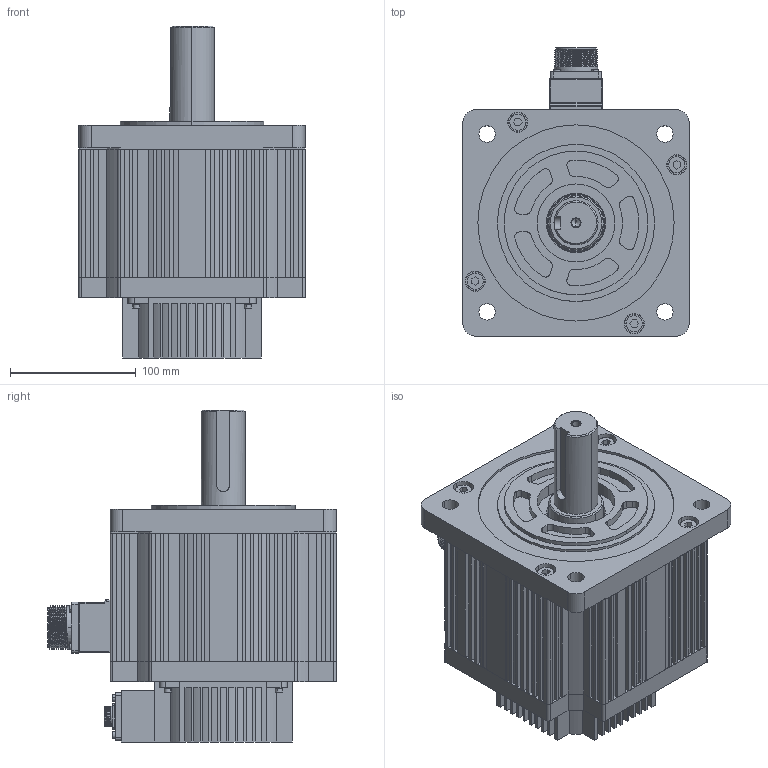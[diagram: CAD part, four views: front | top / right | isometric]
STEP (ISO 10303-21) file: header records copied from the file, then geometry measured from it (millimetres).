
FILE_DESCRIPTION (( 'STEP AP203' ), '1' );
FILE_NAME ('180# 2.9KW.STEP', '2019-02-23T02:12:18', ( 'ZSM' ), ( '' ), 'SwSTEP 2.0', 'SolidWorks 2014', '' );
FILE_SCHEMA (( 'CONFIG_CONTROL_DESIGN' ));
Length unit declared in the file: millimetre
Products named in the file (18): D18B102M1; GB／T70．1-2000内六角圆柱头螺钉M8×20; D18B1004G_D18B1004G1; 晤鎢ん裔啣 D18B102AB; D18B102N1-; CMS3102A22-22P-Z; D13B111A; 瑤諾脣芛 16M-9H; D18B102P; 綴傷裔裔啣 D18B102AC; GB T848-2002 ±3; GX2-D18B101E_D18B101E1; 180# 2.9KW; GB／T70．1-2000内六角圆柱头螺钉M3×10; D18B1003E_D18B1003E1; GB／T70．1-2000内六角圆柱头螺钉M3×6; D18B103G_D18B103G1; GB／T848-2002小垫圈A级8×1．6
Assembly tree (55 placements, depth 3):
  180# 2.9KW
    D18B1003E_D18B1003E1
      GX2-D18B101E_D18B101E1
    D18B1004G_D18B1004G1
      D18B103G_D18B103G1
      D18B102M1
    D18B102N1-
    D13B111A
    D18B102P
    GB T848-2002 ±3  x9
    GB／T70．1-2000内六角圆柱头螺钉M3×10  x11
    GB／T70．1-2000内六角圆柱头螺钉M3×6  x7
    GB／T848-2002小垫圈A级8×1．6  x8
    GB／T70．1-2000内六角圆柱头螺钉M8×20  x8
    晤鎢ん裔啣 D18B102AB
    CMS3102A22-22P-Z
    瑤諾脣芛 16M-9H
    綴傷裔裔啣 D18B102AC
Bounding box: 180 x 229.6 x 264 mm (x, y, z)
Volume: 2074550.9 mm3; surface area: 535301.5 mm2
Topology: 53 solids, 53 shells, 1902 faces, 4661 edges, 2992 vertices
Faces by surface type: plane 865, cylinder 743, torus 162, cone 110, sphere 14, bspline 8
Entity records: 47393 total; most frequent: CARTESIAN_POINT 10206, DIRECTION 7461, ORIENTED_EDGE 6962, EDGE_CURVE 3481, AXIS2_PLACEMENT_3D 2714, VERTEX_POINT 2266, LINE 2033, VECTOR 2033
